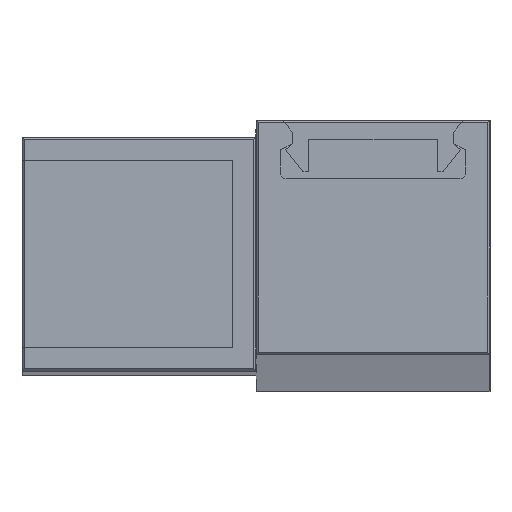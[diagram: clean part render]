
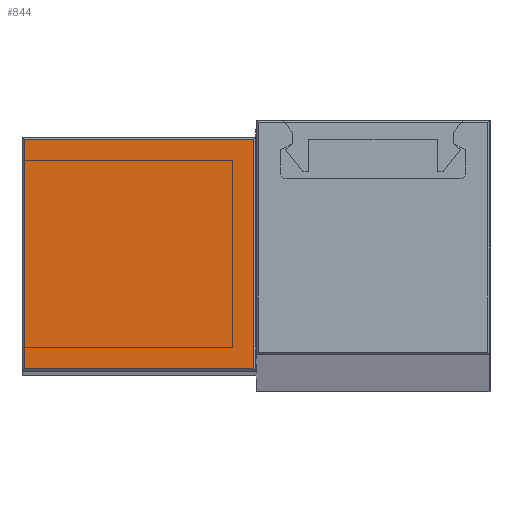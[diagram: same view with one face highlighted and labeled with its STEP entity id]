
A CAD part, top view. The second image highlights one B-rep face of the part: STEP entity #844.
In plain terms, the highlighted planar face has unit normal (0, 0, 1).
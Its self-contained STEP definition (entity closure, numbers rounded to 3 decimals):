
#26 = ORIENTED_EDGE ( 'NONE', *, *, #2203, .T. ) ;
#62 = ORIENTED_EDGE ( 'NONE', *, *, #1645, .T. ) ;
#136 = CARTESIAN_POINT ( 'NONE',  ( -20., 0.003, 92. ) ) ;
#168 = VERTEX_POINT ( 'NONE', #1449 ) ;
#192 = CARTESIAN_POINT ( 'NONE',  ( -10.2, 10.003, 91.998 ) ) ;
#197 = EDGE_LOOP ( 'NONE', ( #26, #1510, #947, #62 ) ) ;
#250 = FACE_OUTER_BOUND ( 'NONE', #197, .T. ) ;
#279 = CARTESIAN_POINT ( 'NONE',  ( -29.8, -9.797, 92.002 ) ) ;
#316 = LINE ( 'NONE', #683, #1300 ) ;
#325 = LINE ( 'NONE', #965, #2362 ) ;
#333 = CARTESIAN_POINT ( 'NONE',  ( -29.8, 9.803, 91.998 ) ) ;
#334 = DIRECTION ( 'NONE',  ( 1., 0., 0. ) ) ;
#478 = VERTEX_POINT ( 'NONE', #333 ) ;
#492 = DIRECTION ( 'NONE',  ( 1., 0., 0. ) ) ;
#683 = CARTESIAN_POINT ( 'NONE',  ( -30., 9.803, 91.998 ) ) ;
#695 = VERTEX_POINT ( 'NONE', #279 ) ;
#844 = ADVANCED_FACE ( 'NONE', ( #250 ), #1310, .T. ) ;
#920 = LINE ( 'NONE', #192, #1442 ) ;
#947 = ORIENTED_EDGE ( 'NONE', *, *, #2226, .T. ) ;
#965 = CARTESIAN_POINT ( 'NONE',  ( -29.8, -9.997, 92.002 ) ) ;
#971 = DIRECTION ( 'NONE',  ( 0., -1., 0. ) ) ;
#1128 = VECTOR ( 'NONE', #492, 1000. ) ;
#1300 = VECTOR ( 'NONE', #1465, 1000. ) ;
#1310 = PLANE ( 'NONE',  #1468 ) ;
#1442 = VECTOR ( 'NONE', #1555, 1000. ) ;
#1449 = CARTESIAN_POINT ( 'NONE',  ( -10.2, 9.803, 91.998 ) ) ;
#1465 = DIRECTION ( 'NONE',  ( -1., 0., 0. ) ) ;
#1468 = AXIS2_PLACEMENT_3D ( 'NONE', #136, #1504, #334 ) ;
#1504 = DIRECTION ( 'NONE',  ( 0., 0., 1. ) ) ;
#1510 = ORIENTED_EDGE ( 'NONE', *, *, #1642, .T. ) ;
#1555 = DIRECTION ( 'NONE',  ( 0., 1., 0. ) ) ;
#1642 = EDGE_CURVE ( 'NONE', #168, #478, #316, .T. ) ;
#1645 = EDGE_CURVE ( 'NONE', #695, #2233, #2416, .T. ) ;
#1927 = CARTESIAN_POINT ( 'NONE',  ( -10.2, -9.797, 92.002 ) ) ;
#2049 = CARTESIAN_POINT ( 'NONE',  ( -10., -9.797, 92.002 ) ) ;
#2203 = EDGE_CURVE ( 'NONE', #2233, #168, #920, .T. ) ;
#2226 = EDGE_CURVE ( 'NONE', #478, #695, #325, .T. ) ;
#2233 = VERTEX_POINT ( 'NONE', #1927 ) ;
#2362 = VECTOR ( 'NONE', #971, 1000. ) ;
#2416 = LINE ( 'NONE', #2049, #1128 ) ;
